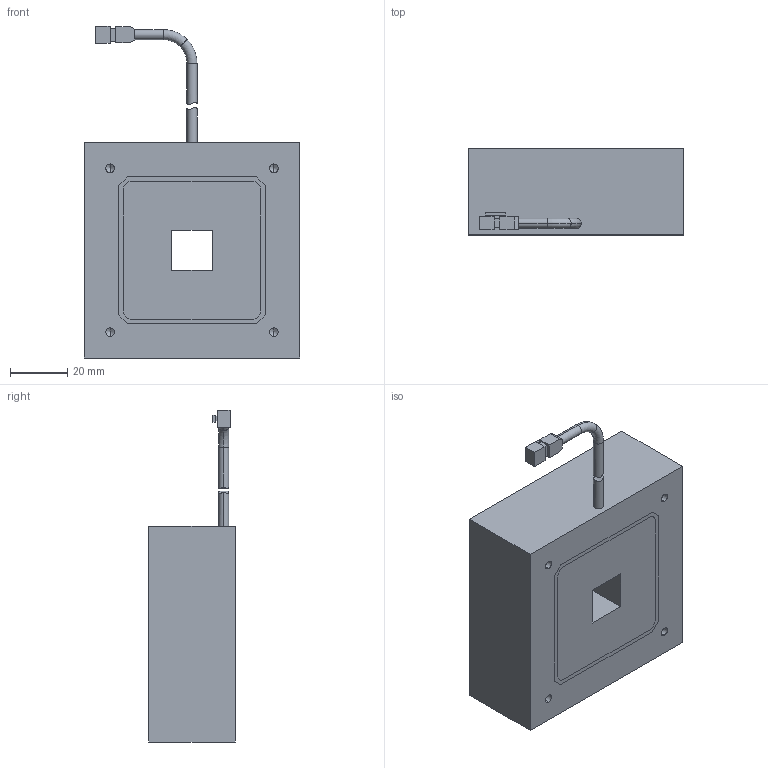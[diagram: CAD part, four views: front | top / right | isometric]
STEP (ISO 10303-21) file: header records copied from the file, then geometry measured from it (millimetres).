
FILE_DESCRIPTION(/* description */ (''),/* implementation_level */ '2;1');
FILE_NAME(/* name */ 'CST-FQS75-简易3D图.STEP',/* time_stamp */ '2022-10-20T15:31:46+08:00',/* author */ (''),/* organization */ (''),/* preprocessor_version */ 'ST-DEVELOPER v16',/* originating_system */ 'SIEMENS PLM Software NX 10.0',/* authorisation */ '');
FILE_SCHEMA (('AUTOMOTIVE_DESIGN { 1 0 10303 214 3 1 1 1 }'));
Length unit declared in the file: millimetre
Products named in the file (1): CST-FQS70-简易3D图_stp
Bounding box: 75 x 30 x 115.5 mm (x, y, z)
Volume: 98779.2 mm3; surface area: 49371.3 mm2
Topology: 5 solids, 5 shells, 181 faces, 453 edges, 285 vertices
Faces by surface type: plane 99, cylinder 56, cone 20, torus 4, extrusion 2
Entity records: 5548 total; most frequent: CARTESIAN_POINT 1141, DIRECTION 911, ORIENTED_EDGE 878, EDGE_CURVE 439, VECTOR 319, LINE 317, AXIS2_PLACEMENT_3D 296, VERTEX_POINT 285
